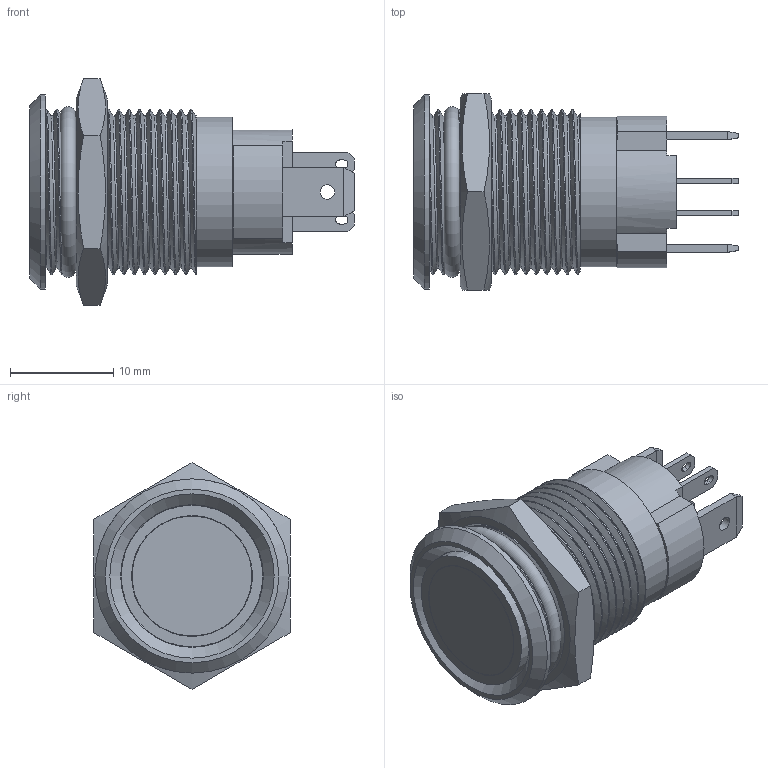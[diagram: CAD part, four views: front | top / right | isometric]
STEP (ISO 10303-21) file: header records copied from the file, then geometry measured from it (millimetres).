
FILE_DESCRIPTION(/* description */ (''),/* implementation_level */ '2;1');
FILE_NAME(/* name */ 'J16-C.stp',/* time_stamp */ '2019-11-08T13:20:25+08:00',/* author */ (''),/* organization */ (''),/* preprocessor_version */ 'ST-DEVELOPER v16.7',/* originating_system */ 'SIEMENS PLM Software NX 12.0',/* authorisation */ '');
FILE_SCHEMA (('AUTOMOTIVE_DESIGN { 1 0 10303 214 3 1 1 1 }'));
Length unit declared in the file: millimetre
Products named in the file (1): Admi6AF438ABmju3
Bounding box: 31.4 x 19 x 21.94 mm (x, y, z)
Volume: 2047 mm3; surface area: 5812.2 mm2
Topology: 12 solids, 12 shells, 484 faces, 1491 edges, 895 vertices
Faces by surface type: plane 271, cylinder 129, sphere 72, cone 7, bspline 4, torus 1
Full cylindrical faces by diameter (mm): 0.2 x4, 1.4 x2, 1.5 x2, 4.92 x1, 7 x1, 9.7 x1, 9.8 x1, 11.6 x1, 11.7 x1, 12.2 x1, 13.7 x1, 13.8 x1, 13.9 x1, 14.5 x1, 18.8 x1
Entity records: 20886 total; most frequent: CARTESIAN_POINT 7286, ORIENTED_EDGE 2616, DIRECTION 2515, EDGE_CURVE 1308, VERTEX_POINT 885, LINE 863, VECTOR 863, AXIS2_PLACEMENT_3D 826
